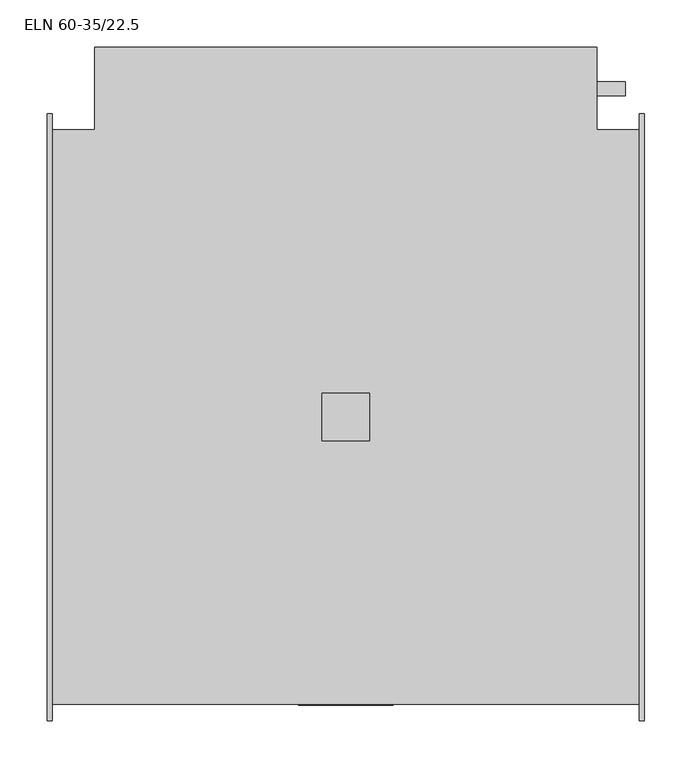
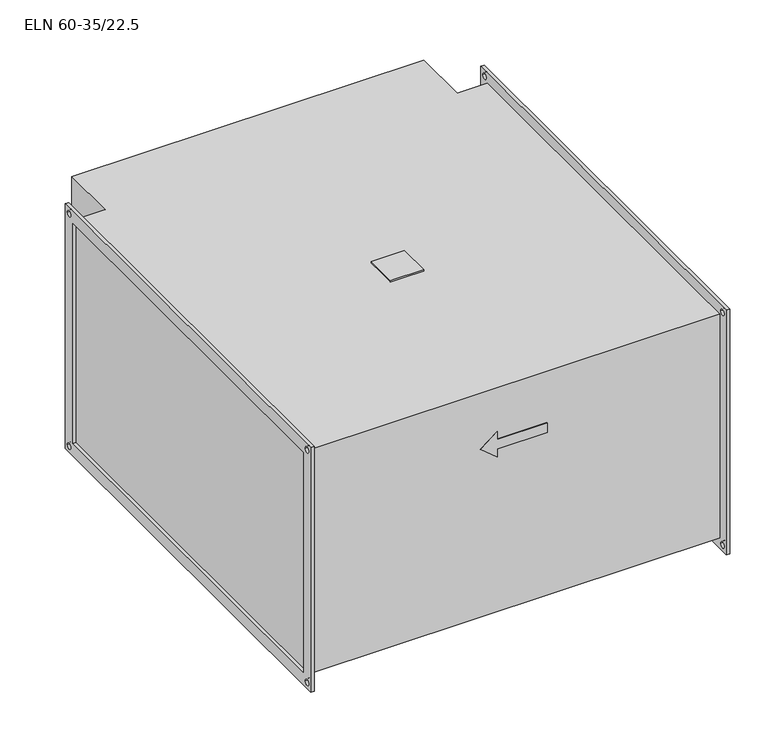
"""IFC4 building model written with IfcOpenShell, lengths in millimetres: proxy geometry, KORF_Нагреватель_Электрический_ELN : ELN 60-35/22.5."""

from ifc_helpers import new_model, si_unit, point, frame, frame_2d, origin, place, context, project, spatial, polyline, circle_curve, trimmed, segment, composite_curve, outline, extrude, source, transform, mapped, element, save


def eln_60_35_22_5_8175634e(model_context):
    return source(origin(), model_context, "Body", "SweptSolid", [
        extrude(outline(polyline([(290.0, -25.0), (290.0, 25.0), (340.0, 25.0), (340.0, -25.0), (290.0, -25.0)])), frame((0.0, 0.0, 178.0), z_axis=(0.0, 0.0, 1.0), x_axis=(1.0, 0.0, 0.0)), (0.0, 0.0, 1.0), 2.0),
        extrude(outline(composite_curve([segment(trimmed(circle_curve(frame_2d((346.5, -89.0)), 7.5), [point((339.0, -89.0))], [point((354.0, -89.0))], False, "CARTESIAN"), True, "CONTINUOUS"), segment(trimmed(circle_curve(frame_2d((346.5, -89.0)), 7.5), [point((354.0, -89.0))], [point((339.0, -89.0))], False, "CARTESIAN"), True, "CONTINUOUS")], self_intersect=False)), frame((580.0, 0.0, 0.0), z_axis=(1.0, 0.0, 0.0), x_axis=(0.0, 1.0, 0.0)), (0.0, 0.0, 1.0), 30.0),
        extrude(outline(composite_curve([segment(trimmed(circle_curve(frame_2d((346.5, -69.0)), 7.5), [point((339.0, -69.0))], [point((354.0, -69.0))], False, "CARTESIAN"), True, "CONTINUOUS"), segment(trimmed(circle_curve(frame_2d((346.5, -69.0)), 7.5), [point((354.0, -69.0))], [point((339.0, -69.0))], False, "CARTESIAN"), True, "CONTINUOUS")], self_intersect=False)), frame((580.0, 0.0, 0.0), z_axis=(1.0, 0.0, 0.0), x_axis=(0.0, 1.0, 0.0)), (0.0, 0.0, 1.0), 30.0),
        extrude(outline(composite_curve([segment(trimmed(circle_curve(frame_2d((346.5, -109.0)), 7.5), [point((339.0, -109.0))], [point((354.0, -109.0))], False, "CARTESIAN"), True, "CONTINUOUS"), segment(trimmed(circle_curve(frame_2d((346.5, -109.0)), 7.5), [point((354.0, -109.0))], [point((339.0, -109.0))], False, "CARTESIAN"), True, "CONTINUOUS")], self_intersect=False)), frame((580.0, 0.0, 0.0), z_axis=(1.0, 0.0, 0.0), x_axis=(0.0, 1.0, 0.0)), (0.0, 0.0, 1.0), 30.0),
        extrude(outline(polyline([(109.0, 290.0), (89.0, 265.0), (69.0, 290.0), (81.5, 290.0), (81.5, 365.0), (96.5, 365.0), (96.5, 290.0), (109.0, 290.0)])), frame((0.0, -304.0, 0.0), z_axis=(0.0, 1.0, 0.0), x_axis=(0.0, 0.0, 1.0)), (0.0, 0.0, 1.0), 1.0),
        extrude(outline(polyline([(625.0, 303.0), (625.0, -303.0), (5.0, -303.0), (5.0, 303.0), (50.0, 303.0), (50.0, 390.0), (580.0, 390.0), (580.0, 303.0), (625.0, 303.0)])), frame((0.0, 0.0, -178.0), z_axis=(0.0, 0.0, 1.0), x_axis=(1.0, 0.0, 0.0)), (0.0, 0.0, 1.0), 356.0),
        extrude(outline(polyline([(-320.0, 195.0), (320.0, 195.0), (320.0, -195.0), (-320.0, -195.0), (-320.0, 195.0)]), holes=[polyline([(-300.0, 175.0), (-300.0, -175.0), (300.0, -175.0), (300.0, 175.0), (-300.0, 175.0)]), composite_curve([segment(trimmed(circle_curve(frame_2d((310.0, 185.0)), 4.5), [point((305.5, 185.0))], [point((314.5, 185.0))], True, "CARTESIAN"), True, "CONTINUOUS"), segment(trimmed(circle_curve(frame_2d((310.0, 185.0)), 4.5), [point((314.5, 185.0))], [point((305.5, 185.0))], True, "CARTESIAN"), True, "CONTINUOUS")], self_intersect=False), composite_curve([segment(trimmed(circle_curve(frame_2d((-310.0, 185.0)), 4.5), [point((-314.5, 185.0))], [point((-305.5, 185.0))], True, "CARTESIAN"), True, "CONTINUOUS"), segment(trimmed(circle_curve(frame_2d((-310.0, 185.0)), 4.5), [point((-305.5, 185.0))], [point((-314.5, 185.0))], True, "CARTESIAN"), True, "CONTINUOUS")], self_intersect=False), composite_curve([segment(trimmed(circle_curve(frame_2d((-310.0, -185.0)), 4.5), [point((-314.5, -185.0))], [point((-305.5, -185.0))], True, "CARTESIAN"), True, "CONTINUOUS"), segment(trimmed(circle_curve(frame_2d((-310.0, -185.0)), 4.5), [point((-305.5, -185.0))], [point((-314.5, -185.0))], True, "CARTESIAN"), True, "CONTINUOUS")], self_intersect=False), composite_curve([segment(trimmed(circle_curve(frame_2d((310.0, -185.0)), 4.5), [point((305.5, -185.0))], [point((314.5, -185.0))], True, "CARTESIAN"), True, "CONTINUOUS"), segment(trimmed(circle_curve(frame_2d((310.0, -185.0)), 4.5), [point((314.5, -185.0))], [point((305.5, -185.0))], True, "CARTESIAN"), True, "CONTINUOUS")], self_intersect=False)]), frame((625.0, 0.0, 0.0), z_axis=(1.0, 0.0, 0.0), x_axis=(0.0, 1.0, 0.0)), (0.0, 0.0, 1.0), 5.0),
        extrude(outline(polyline([(-320.0, 195.0), (320.0, 195.0), (320.0, -195.0), (-320.0, -195.0), (-320.0, 195.0)]), holes=[polyline([(-300.0, 175.0), (-300.0, -175.0), (300.0, -175.0), (300.0, 175.0), (-300.0, 175.0)]), composite_curve([segment(trimmed(circle_curve(frame_2d((310.0, 185.0)), 4.5), [point((305.5, 185.0))], [point((314.5, 185.0))], True, "CARTESIAN"), True, "CONTINUOUS"), segment(trimmed(circle_curve(frame_2d((310.0, 185.0)), 4.5), [point((314.5, 185.0))], [point((305.5, 185.0))], True, "CARTESIAN"), True, "CONTINUOUS")], self_intersect=False), composite_curve([segment(trimmed(circle_curve(frame_2d((-310.0, 185.0)), 4.5), [point((-314.5, 185.0))], [point((-305.5, 185.0))], True, "CARTESIAN"), True, "CONTINUOUS"), segment(trimmed(circle_curve(frame_2d((-310.0, 185.0)), 4.5), [point((-305.5, 185.0))], [point((-314.5, 185.0))], True, "CARTESIAN"), True, "CONTINUOUS")], self_intersect=False), composite_curve([segment(trimmed(circle_curve(frame_2d((-310.0, -185.0)), 4.5), [point((-314.5, -185.0))], [point((-305.5, -185.0))], True, "CARTESIAN"), True, "CONTINUOUS"), segment(trimmed(circle_curve(frame_2d((-310.0, -185.0)), 4.5), [point((-305.5, -185.0))], [point((-314.5, -185.0))], True, "CARTESIAN"), True, "CONTINUOUS")], self_intersect=False), composite_curve([segment(trimmed(circle_curve(frame_2d((310.0, -185.0)), 4.5), [point((305.5, -185.0))], [point((314.5, -185.0))], True, "CARTESIAN"), True, "CONTINUOUS"), segment(trimmed(circle_curve(frame_2d((310.0, -185.0)), 4.5), [point((314.5, -185.0))], [point((305.5, -185.0))], True, "CARTESIAN"), True, "CONTINUOUS")], self_intersect=False)]), frame((0.0, 0.0, 0.0), z_axis=(1.0, 0.0, 0.0), x_axis=(0.0, 1.0, 0.0)), (0.0, 0.0, 1.0), 5.0),
    ])


if __name__ == "__main__":
    model = new_model("IFC4")
    model_context = context("Model", 3, world=origin())
    ifc_project = project(units=[si_unit("LENGTHUNIT", "METRE", prefix="MILLI")], contexts=[model_context])
    site = spatial("IfcSite", under=ifc_project)
    building = spatial("IfcBuilding", under=site)
    placement = place(None, origin())
    eln_60_35_22_5_shape = eln_60_35_22_5_8175634e(model_context)
    element("IfcBuildingElementProxy", 1, Name="KORF_Нагреватель_Электрический_ELN : ELN 60-35/22.5", ObjectType="KORF_Нагреватель_Электрический_ELN : ELN 60-35/22.5", at=placement, inside=building, context=model_context, shape_type="MappedRepresentation", body=[
        mapped(eln_60_35_22_5_shape, transform((0.0, 0.0, 0.0), x_axis=(1.0, 0.0, 0.0), y_axis=(0.0, 1.0, 0.0), z_axis=(0.0, 0.0, 1.0))),
    ])
    save(model, "model.ifc")
